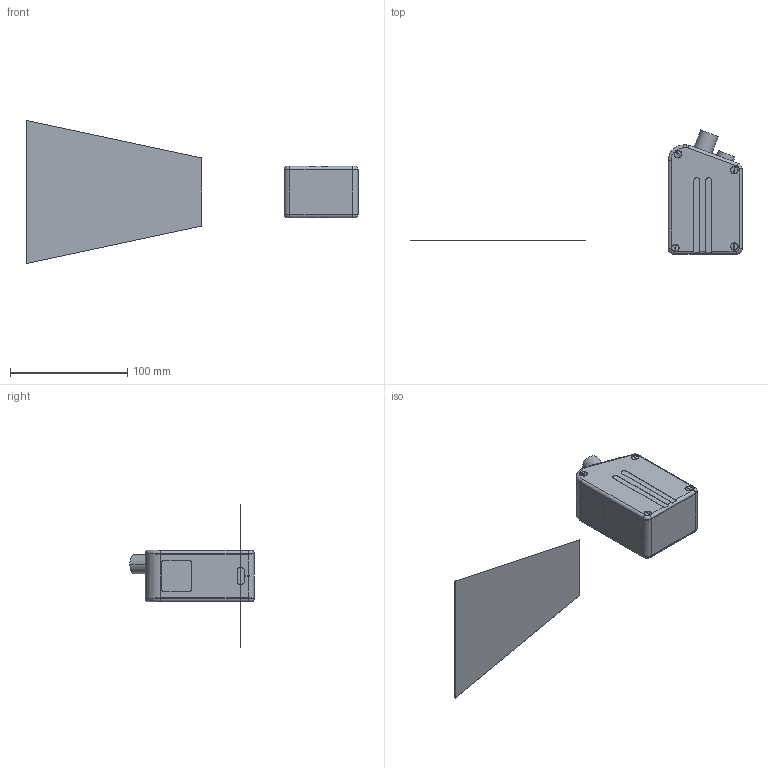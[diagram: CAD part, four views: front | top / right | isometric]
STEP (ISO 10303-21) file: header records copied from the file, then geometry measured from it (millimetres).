
FILE_DESCRIPTION (( 'STEP AP214' ), '1' );
FILE_NAME ('ÐÔ 627.65_150.000_ÑÁ ñêàíåð äëÿ ñàéòà.STEP', '2019-07-02T06:44:34', ( 'test' ), ( 'Ref' ), 'SwSTEP 2.0', 'SolidWorks 2015', '' );
FILE_SCHEMA (( 'AUTOMOTIVE_DESIGN' ));
Length unit declared in the file: millimetre
Products named in the file (27): Submodel-FH12-06S-1SH_lpar_55_rpar__1599555785_part_FH12-06S-1SH_1; Âèíò_Ì3x8 â ïîòàé; 砐錼 睯儰擯闃蠂 65-150; Submodel-Binder_09-0428-30-08_3952738181_part_Binder_09-0428-30-08_1; 性 625.75_ 袜觌彘赅_觏铒觇; Êîðïóñ 627 - 75-50 ñ ïàçîì ïîñëåäíåå; placementOutline_1_3; placementOutline_1_4; Âèíò_Ì3x10 â ïîòàé; Êðûøêà 627 â5 çåðêàëüíàÿ ïîñëåäíÿÿ; Submodel-noModelForPart_FH12-06S-1SH_lpar_55_rpar__1599555785_1; RF627_80_017(1); 栺樏鋋 14-6-2; Submodel-noModelForPart_FH12-32S-0.5SH_lpar_55_rpar__2555814880_1; Êðûøêà 627 - â5 êðûøêà áîêîâàÿ ïîñëåäíÿÿ 1; 栺樏鋋 26-26-2 擤; placementOutline_1; placementOutline_1_2; Submodel-1553488_341613795_part_PHOENIX_1553488_1; Ðåçüáîâàÿ âòóëêà Ì6-6; DesignRootModel_1; Submodel-FH12-32S-0.5SH_lpar_55_rpar__2555814880_part_FH12-32S-0.5SH_1; Submodel-noModelForPart_Binder_09-0428-30-08_3952738181_1; Submodel-noModelForPart_1553488_341613795_1; Âèíò_Ì2õ4; uid__27_1; ÐÔ 627.65_150.000_ÑÁ ñêàíåð äëÿ ñàéòà
Assembly tree (39 placements, depth 6):
  ÐÔ 627.65_150.000_ÑÁ ñêàíåð äëÿ ñàéòà
    RF627_80_017(1)
      DesignRootModel_1
        uid__27_1
        Submodel-1553488_341613795_part_PHOENIX_1553488_1
          Submodel-noModelForPart_1553488_341613795_1
            placementOutline_1
        Submodel-Binder_09-0428-30-08_3952738181_part_Binder_09-0428-30-08_1
          Submodel-noModelForPart_Binder_09-0428-30-08_3952738181_1
            placementOutline_1_2
        Submodel-FH12-06S-1SH_lpar_55_rpar__1599555785_part_FH12-06S-1SH_1  x2
          Submodel-noModelForPart_FH12-06S-1SH_lpar_55_rpar__1599555785_1
            placementOutline_1_3
        Submodel-FH12-32S-0.5SH_lpar_55_rpar__2555814880_part_FH12-32S-0.5SH_1
          Submodel-noModelForPart_FH12-32S-0.5SH_lpar_55_rpar__2555814880_1
            placementOutline_1_4
    Êîðïóñ 627 - 75-50 ñ ïàçîì ïîñëåäíåå
    Êðûøêà 627 - â5 êðûøêà áîêîâàÿ ïîñëåäíÿÿ 1
    Êðûøêà 627 â5 çåðêàëüíàÿ ïîñëåäíÿÿ
    Ðåçüáîâàÿ âòóëêà Ì6-6  x4
    性 625.75_ 袜觌彘赅_觏铒觇
    Âèíò_Ì2õ4  x4
    Âèíò_Ì3x10 â ïîòàé  x6
    栺樏鋋 14-6-2
    栺樏鋋 26-26-2 擤
    Âèíò_Ì3x8 â ïîòàé  x2
    砐錼 睯儰擯闃蠂 65-150
Bounding box: 283 x 105.9 x 122 mm (x, y, z)
Volume: 80624.8 mm3; surface area: 88472.7 mm2
Topology: 31 solids, 31 shells, 1132 faces, 2980 edges, 1932 vertices
Faces by surface type: plane 606, cylinder 300, cone 112, bspline 84, torus 30
Entity records: 34637 total; most frequent: CARTESIAN_POINT 9729, ORIENTED_EDGE 4812, DIRECTION 4574, EDGE_CURVE 2406, VECTOR 1576, VERTEX_POINT 1576, LINE 1576, AXIS2_PLACEMENT_3D 1499
